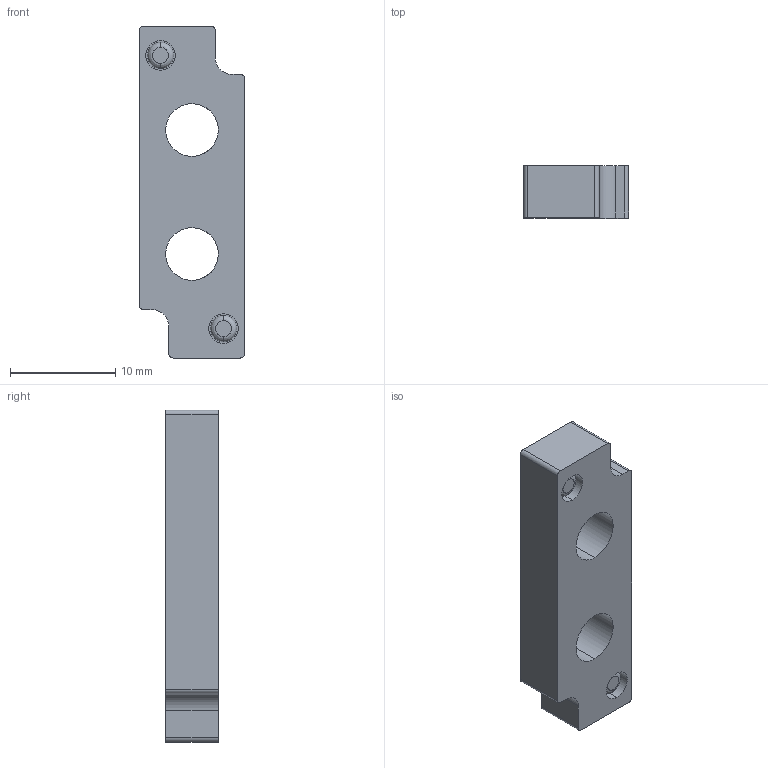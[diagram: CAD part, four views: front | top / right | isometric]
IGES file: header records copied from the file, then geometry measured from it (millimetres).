
Start section: ------------------------------------------------------------------------
Global section: file name: D:\ICADMX\tmp\trans3d_spg\CVICAD02.21404.F10_Port-FM_15142.igs; native system: spGate; preprocessor: ver12.6.6; author: Unknown; organization: Unknown; date: 200901.145756; units: millimetre
Bounding box: 10 x 5 x 31.6 mm (x, y, z)
Volume: 1251 mm3; surface area: 1087 mm2
Topology: 1 solids, 1 shells, 34 faces, 86 edges, 58 vertices
Faces by surface type: bspline 34
